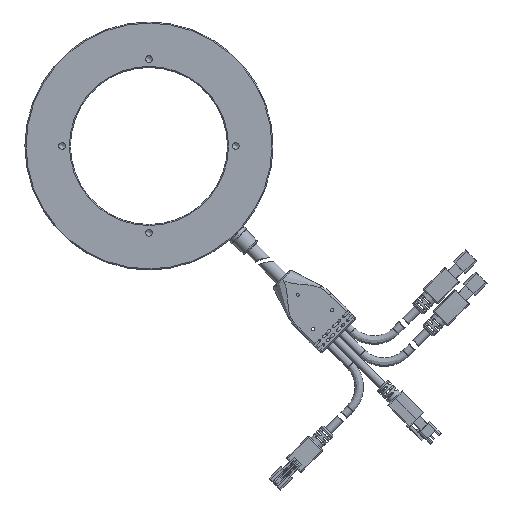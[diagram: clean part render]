
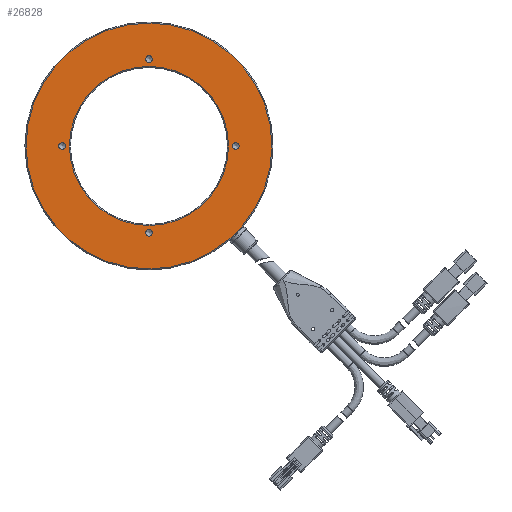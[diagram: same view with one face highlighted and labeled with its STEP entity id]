
A CAD part, front view. The second image highlights one B-rep face of the part: STEP entity #26828.
In plain terms, the highlighted planar face has unit normal (0, -1, 0).
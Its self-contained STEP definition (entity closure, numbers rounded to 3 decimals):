
#1020 = EDGE_CURVE ( 'NONE', #20317, #20317, #26325, .T. ) ;
#1238 = DIRECTION ( 'NONE',  ( 0., -1., 0. ) ) ;
#2517 = ORIENTED_EDGE ( 'NONE', *, *, #8918, .T. ) ;
#2781 = ORIENTED_EDGE ( 'NONE', *, *, #2874, .T. ) ;
#2874 = EDGE_CURVE ( 'NONE', #26131, #26131, #27702, .T. ) ;
#2883 = CIRCLE ( 'NONE', #14743, 1.65 ) ;
#2938 = CARTESIAN_POINT ( 'NONE',  ( 0., -5.402, -38. ) ) ;
#3367 = VERTEX_POINT ( 'NONE', #15440 ) ;
#4713 = AXIS2_PLACEMENT_3D ( 'NONE', #22471, #7136, #10254 ) ;
#5190 = DIRECTION ( 'NONE',  ( 0., 0., 1. ) ) ;
#5339 = DIRECTION ( 'NONE',  ( 0., 1., 0. ) ) ;
#5497 = EDGE_LOOP ( 'NONE', ( #2781 ) ) ;
#6859 = DIRECTION ( 'NONE',  ( 0., 1., 0. ) ) ;
#7136 = DIRECTION ( 'NONE',  ( 0., 1., 0. ) ) ;
#7287 = FACE_BOUND ( 'NONE', #9594, .T. ) ;
#7337 = ORIENTED_EDGE ( 'NONE', *, *, #39933, .T. ) ;
#7558 = CARTESIAN_POINT ( 'NONE',  ( 0., -5.402, 0. ) ) ;
#7778 = FACE_BOUND ( 'NONE', #5497, .T. ) ;
#8645 = CIRCLE ( 'NONE', #14644, 1.65 ) ;
#8918 = EDGE_CURVE ( 'NONE', #35343, #35343, #15146, .T. ) ;
#9224 = FACE_BOUND ( 'NONE', #29233, .T. ) ;
#9594 = EDGE_LOOP ( 'NONE', ( #7337 ) ) ;
#9652 = PLANE ( 'NONE',  #34270 ) ;
#10254 = DIRECTION ( 'NONE',  ( -1., 0., 0. ) ) ;
#11808 = ORIENTED_EDGE ( 'NONE', *, *, #35716, .T. ) ;
#12200 = EDGE_CURVE ( 'NONE', #3367, #3367, #8645, .T. ) ;
#13947 = CARTESIAN_POINT ( 'NONE',  ( 0., -5.402, 43.65 ) ) ;
#14644 = AXIS2_PLACEMENT_3D ( 'NONE', #35830, #20378, #5190 ) ;
#14743 = AXIS2_PLACEMENT_3D ( 'NONE', #40005, #15332, #37027 ) ;
#15146 = CIRCLE ( 'NONE', #22354, 59.5 ) ;
#15332 = DIRECTION ( 'NONE',  ( 0., 1., 0. ) ) ;
#15440 = CARTESIAN_POINT ( 'NONE',  ( 0., -5.402, -40.35 ) ) ;
#15550 = FACE_BOUND ( 'NONE', #18580, .T. ) ;
#15833 = DIRECTION ( 'NONE',  ( 0., 0., 1. ) ) ;
#18580 = EDGE_LOOP ( 'NONE', ( #26300 ) ) ;
#18594 = DIRECTION ( 'NONE',  ( -1., 0., 0. ) ) ;
#19069 = EDGE_LOOP ( 'NONE', ( #2517 ) ) ;
#19763 = VERTEX_POINT ( 'NONE', #13947 ) ;
#20317 = VERTEX_POINT ( 'NONE', #28370 ) ;
#20378 = DIRECTION ( 'NONE',  ( 0., 1., 0. ) ) ;
#20901 = FACE_BOUND ( 'NONE', #20902, .T. ) ;
#20902 = EDGE_LOOP ( 'NONE', ( #11808 ) ) ;
#21225 = VERTEX_POINT ( 'NONE', #38577 ) ;
#21852 = DIRECTION ( 'NONE',  ( 0., 1., 0. ) ) ;
#22281 = AXIS2_PLACEMENT_3D ( 'NONE', #39348, #5339, #26992 ) ;
#22354 = AXIS2_PLACEMENT_3D ( 'NONE', #7558, #1238, #32089 ) ;
#22471 = CARTESIAN_POINT ( 'NONE',  ( 0., -5.402, 0. ) ) ;
#23997 = CARTESIAN_POINT ( 'NONE',  ( -59.5, -5.402, 0. ) ) ;
#26131 = VERTEX_POINT ( 'NONE', #35459 ) ;
#26300 = ORIENTED_EDGE ( 'NONE', *, *, #12200, .T. ) ;
#26325 = CIRCLE ( 'NONE', #22281, 1.65 ) ;
#26828 = ADVANCED_FACE ( 'NONE', ( #30578, #7287, #20901, #7778, #15550, #9224 ), #9652, .F. ) ;
#26992 = DIRECTION ( 'NONE',  ( 0., 0., 1. ) ) ;
#27702 = CIRCLE ( 'NONE', #30859, 1.65 ) ;
#28370 = CARTESIAN_POINT ( 'NONE',  ( 42., -5.402, 1.65 ) ) ;
#29233 = EDGE_LOOP ( 'NONE', ( #37153 ) ) ;
#30578 = FACE_OUTER_BOUND ( 'NONE', #19069, .T. ) ;
#30859 = AXIS2_PLACEMENT_3D ( 'NONE', #33990, #6859, #15833 ) ;
#30996 = CIRCLE ( 'NONE', #4713, 38.5 ) ;
#32089 = DIRECTION ( 'NONE',  ( -1., 0., 0. ) ) ;
#33990 = CARTESIAN_POINT ( 'NONE',  ( -42., -5.402, 0. ) ) ;
#34270 = AXIS2_PLACEMENT_3D ( 'NONE', #2938, #21852, #18594 ) ;
#35343 = VERTEX_POINT ( 'NONE', #23997 ) ;
#35459 = CARTESIAN_POINT ( 'NONE',  ( -42., -5.402, 1.65 ) ) ;
#35716 = EDGE_CURVE ( 'NONE', #19763, #19763, #2883, .T. ) ;
#35830 = CARTESIAN_POINT ( 'NONE',  ( 0., -5.402, -42. ) ) ;
#37027 = DIRECTION ( 'NONE',  ( 0., 0., 1. ) ) ;
#37153 = ORIENTED_EDGE ( 'NONE', *, *, #1020, .T. ) ;
#38577 = CARTESIAN_POINT ( 'NONE',  ( -38.5, -5.402, 0. ) ) ;
#39348 = CARTESIAN_POINT ( 'NONE',  ( 42., -5.402, 0. ) ) ;
#39933 = EDGE_CURVE ( 'NONE', #21225, #21225, #30996, .T. ) ;
#40005 = CARTESIAN_POINT ( 'NONE',  ( 0., -5.402, 42. ) ) ;
